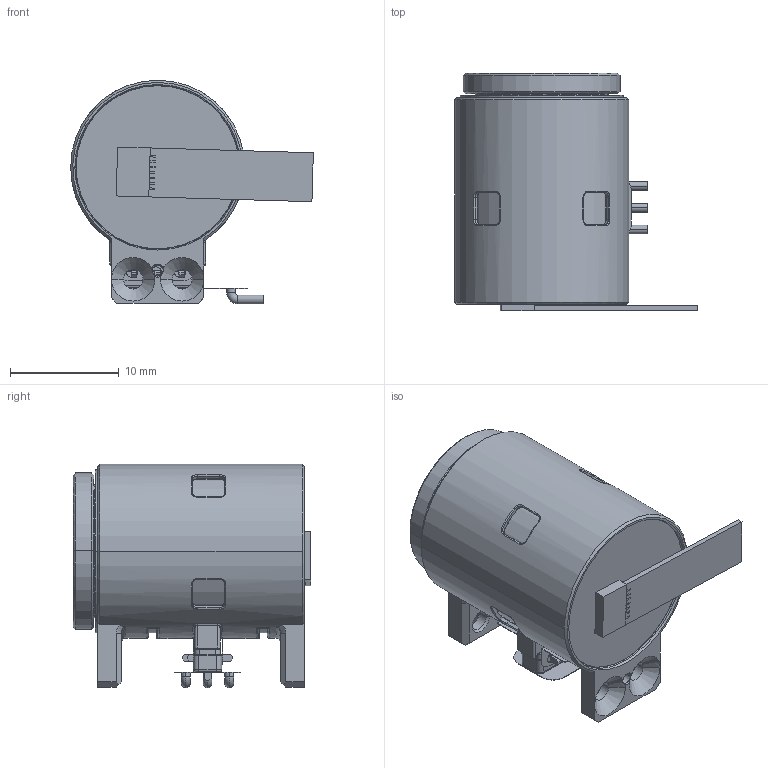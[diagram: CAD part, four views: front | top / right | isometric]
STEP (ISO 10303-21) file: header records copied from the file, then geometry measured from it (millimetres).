
FILE_DESCRIPTION((''),'2;1');
FILE_NAME('X16L-UM50-MH-1_ASM','2026-01-29T17:52:11',('wenbo'),(''),'CREO PARAMETRIC BY PTC INC, 2024325','CREO PARAMETRIC BY PTC INC, 2024325','');
FILE_SCHEMA(('CONFIG_CONTROL_DESIGN'));
Length unit declared in the file: millimetre
Products named in the file (20): 083000000001_36LAYER_66_1_1_1; ZUZHUANG_ASM_3_ASM_1_ASM_1_ASM__ASM; YUANZHU1_1_1_1; 025000000002_AF0_1_1_1_1_2_1_1_; 025300000001_1_1_1_1_2_1_1_1_1_; 025000000001_ASM_1_1_ASM_1_1__1_ASM; JIECHAZUO_ASM_2_ASM_1_ASM_1_ASM; BANJINFPC2_6_1_1; FPCBANJIN_16_1_1; DIANXIAN_3_1_1; YUANZHU_4_1_1; ZUZHUANG_ASM_ASM_1_ASM_1_ASM_1_ASM; 16MML_ASM_1_ASM_1_ASM; PCB_1; 1_1; CHANGTIAO_1; 16MML_ASM_1_ASM; 094200000008; XIAO_1_1; X16L-UM50-MH-1_ASM
Assembly tree (31 placements, depth 7):
  X16L-UM50-MH-1_ASM
    16MML_ASM_1_ASM
      16MML_ASM_1_ASM_1_ASM
        ZUZHUANG_ASM_ASM_1_ASM_1_ASM_1_ASM
          ZUZHUANG_ASM_3_ASM_1_ASM_1_ASM__ASM
            083000000001_36LAYER_66_1_1_1
          YUANZHU1_1_1_1
          JIECHAZUO_ASM_2_ASM_1_ASM_1_ASM
            025000000001_ASM_1_1_ASM_1_1__1_ASM
              025000000002_AF0_1_1_1_1_2_1_1_
              025300000001_1_1_1_1_2_1_1_1_1_  x3
          BANJINFPC2_6_1_1
          FPCBANJIN_16_1_1  x2
          DIANXIAN_3_1_1  x3
          YUANZHU_4_1_1
      PCB_1
      1_1
      CHANGTIAO_1
    094200000008
    XIAO_1_1  x8
Bounding box: 22.31 x 21.85 x 20.55 mm (x, y, z)
Volume: 3449.3 mm3; surface area: 5180 mm2
Topology: 25 solids, 29 shells, 857 faces, 2271 edges, 1454 vertices
Faces by surface type: cylinder 300, plane 283, torus 117, cone 93, bspline 60, sphere 4
Entity records: 27801 total; most frequent: CARTESIAN_POINT 8712, DIRECTION 4168, ORIENTED_EDGE 3870, EDGE_CURVE 1963, AXIS2_PLACEMENT_3D 1690, VERTEX_POINT 1262, CIRCLE 955, EDGE_LOOP 797
